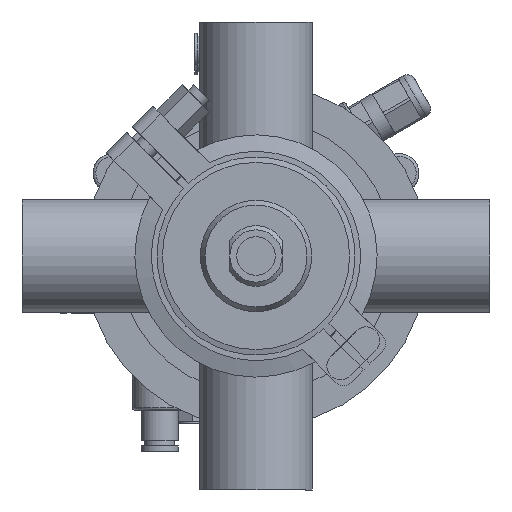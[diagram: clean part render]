
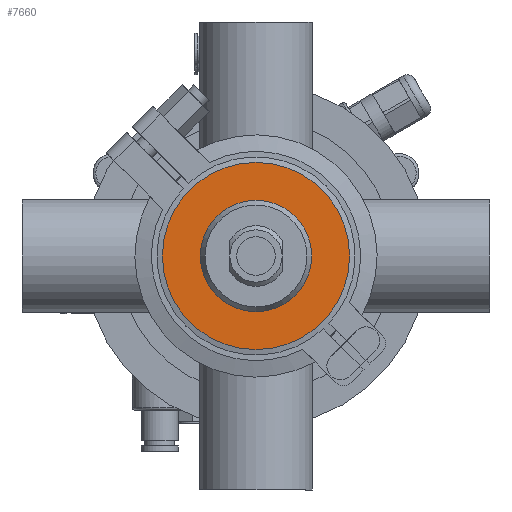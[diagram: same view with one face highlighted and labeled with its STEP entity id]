
A CAD part, front view. The second image highlights one B-rep face of the part: STEP entity #7660.
In plain terms, the highlighted planar face has unit normal (0, -1, 0).
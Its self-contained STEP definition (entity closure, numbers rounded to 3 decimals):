
#788 = CARTESIAN_POINT ( 'NONE',  ( -34., -13., 0. ) ) ;
#4223 = CIRCLE ( 'NONE', #59938, 34. ) ;
#4396 = DIRECTION ( 'NONE',  ( 0., 0., 1. ) ) ;
#7660 = ADVANCED_FACE ( 'NONE', ( #35356, #15370 ), #50176, .T. ) ;
#10631 = DIRECTION ( 'NONE',  ( 0., -1., 0. ) ) ;
#11974 = DIRECTION ( 'NONE',  ( 0., 0., 1. ) ) ;
#14246 = ORIENTED_EDGE ( 'NONE', *, *, #35281, .F. ) ;
#15370 = FACE_OUTER_BOUND ( 'NONE', #43497, .T. ) ;
#17323 = DIRECTION ( 'NONE',  ( 0., 1., 0. ) ) ;
#20192 = CARTESIAN_POINT ( 'NONE',  ( 0., -13., 20.25 ) ) ;
#22406 = CARTESIAN_POINT ( 'NONE',  ( 0., -13., 0. ) ) ;
#28528 = CARTESIAN_POINT ( 'NONE',  ( 0., -13., 34. ) ) ;
#30733 = AXIS2_PLACEMENT_3D ( 'NONE', #52799, #47732, #4396 ) ;
#30921 = DIRECTION ( 'NONE',  ( 0., 0., -1. ) ) ;
#33274 = ORIENTED_EDGE ( 'NONE', *, *, #55521, .T. ) ;
#35281 = EDGE_CURVE ( 'NONE', #44301, #44301, #4223, .T. ) ;
#35356 = FACE_BOUND ( 'NONE', #50410, .T. ) ;
#38077 = AXIS2_PLACEMENT_3D ( 'NONE', #788, #10631, #30921 ) ;
#43497 = EDGE_LOOP ( 'NONE', ( #14246 ) ) ;
#44301 = VERTEX_POINT ( 'NONE', #28528 ) ;
#45788 = VERTEX_POINT ( 'NONE', #20192 ) ;
#47732 = DIRECTION ( 'NONE',  ( 0., 1., 0. ) ) ;
#50176 = PLANE ( 'NONE',  #38077 ) ;
#50410 = EDGE_LOOP ( 'NONE', ( #33274 ) ) ;
#52799 = CARTESIAN_POINT ( 'NONE',  ( 0., -13., 0. ) ) ;
#55521 = EDGE_CURVE ( 'NONE', #45788, #45788, #59028, .T. ) ;
#59028 = CIRCLE ( 'NONE', #30733, 20.25 ) ;
#59938 = AXIS2_PLACEMENT_3D ( 'NONE', #22406, #17323, #11974 ) ;
